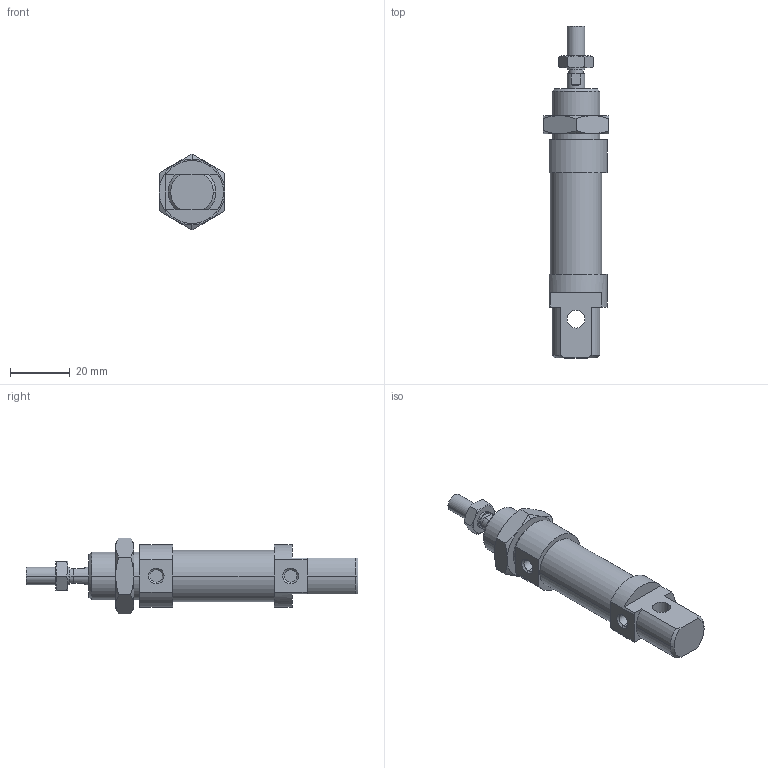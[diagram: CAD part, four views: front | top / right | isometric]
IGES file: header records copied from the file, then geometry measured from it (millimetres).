
Global section: file name: No Iges File Name specified; native system: AutoDesk Inventor R6.0; preprocessor: AutoDesk Inventor Iges Exporter R6.0; author: No Author specified; organization: No Organization specified; date: 20030407.191118; units: millimetre
Bounding box: 22 x 111 x 25.4 mm (x, y, z)
Volume: 22860.9 mm3; surface area: 9046.8 mm2
Topology: 4 solids, 4 shells, 121 faces, 268 edges, 162 vertices
Faces by surface type: plane 39, cone 38, bspline 20, cylinder 18, revolution 6
